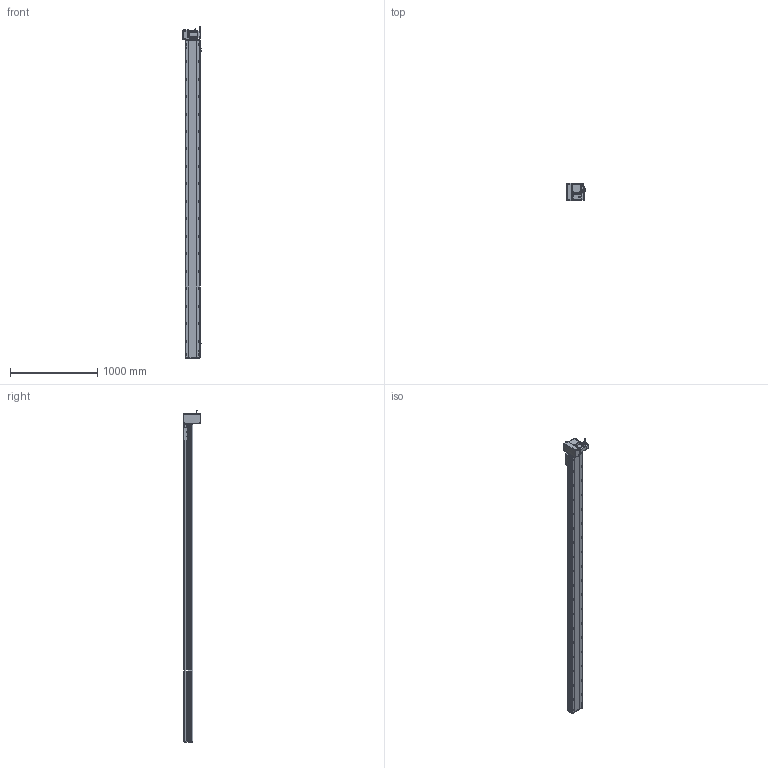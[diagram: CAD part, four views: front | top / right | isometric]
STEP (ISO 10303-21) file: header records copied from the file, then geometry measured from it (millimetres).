
FILE_DESCRIPTION (( 'STEP AP214' ), '1' );
FILE_NAME ('RTB17S-XX-3350-LM-M75-C4.STEP', '2025-12-12T00:51:49', ( '' ), ( '' ), 'SwSTEP 2.0', 'SolidWorks 2018', '' );
FILE_SCHEMA (( 'AUTOMOTIVE_DESIGN' ));
Length unit declared in the file: millimetre
Products named in the file (15): RTB17-R-011菁釱^RTB17S-XX-XX-LM-M75-C4; RTB17S-L-004-賑釱^RTB17S-賑釱_RTB17S-XX-XX-LM-M75-C4; RTB22S-GY-018P^RTB17S-LM-々湍釱蚾饜-750W_RTB17S-XX-XX-LM-M75-C4; RTB22S-GY-017P^RTB17S-LM-々湍釱蚾饜-750W_RTB17S-XX-XX-LM-M75-C4; RTB17S-XX-3350-LM-M75-C4; 750W萇儂^RTB17S-XX-XX-LM-M75-C4; RTB22S-GY-008-M75--萇儂啣^RTB17S-LM-々湍釱蚾饜-750W_RTB17S-XX-XX-LM-M75-C4; RTB17S-L-001-耜醱啣^RTB17S-XX-XX-LM-M75-C4; RTB17S-L-007奻裔^RTB17S-XX-XX-LM-M75-C4; RTB17S-賑釱^RTB17S-XX-XX-LM-M75-C4; EE672^RTB17S-XX-XX-LM-M75-C4; RTB17S-LM-々湍釱蚾饜-750W^RTB17S-XX-XX-LM-M75-C4; RTB22S-GY-005P^RTB17S-LM-々湍釱蚾饜-750W_RTB17S-XX-XX-LM-M75-C4; RTH13-BL-012覜茼え俋离^RTB17S-賑釱_RTB17S-XX-XX-LM-M75-C4; RTB17S-L-014-T20-P75--々湍釱^RTB17S-LM-々湍釱蚾饜-750W_RTB17S-XX-XX-LM-M75-C4
Assembly tree (17 placements, depth 3):
  RTB17S-XX-3350-LM-M75-C4
    RTB17-R-011菁釱^RTB17S-XX-XX-LM-M75-C4
    EE672^RTB17S-XX-XX-LM-M75-C4  x3
    RTB17S-L-001-耜醱啣^RTB17S-XX-XX-LM-M75-C4
    RTB17S-賑釱^RTB17S-XX-XX-LM-M75-C4
      RTB17S-L-004-賑釱^RTB17S-賑釱_RTB17S-XX-XX-LM-M75-C4
      RTH13-BL-012覜茼え俋离^RTB17S-賑釱_RTB17S-XX-XX-LM-M75-C4
    RTB17S-L-007奻裔^RTB17S-XX-XX-LM-M75-C4
    750W萇儂^RTB17S-XX-XX-LM-M75-C4
    RTB17S-LM-々湍釱蚾饜-750W^RTB17S-XX-XX-LM-M75-C4
      RTB17S-L-014-T20-P75--々湍釱^RTB17S-LM-々湍釱蚾饜-750W_RTB17S-XX-XX-LM-M75-C4
      RTB22S-GY-005P^RTB17S-LM-々湍釱蚾饜-750W_RTB17S-XX-XX-LM-M75-C4
      RTB22S-GY-017P^RTB17S-LM-々湍釱蚾饜-750W_RTB17S-XX-XX-LM-M75-C4  x2
      RTB22S-GY-008-M75--萇儂啣^RTB17S-LM-々湍釱蚾饜-750W_RTB17S-XX-XX-LM-M75-C4
      RTB22S-GY-018P^RTB17S-LM-々湍釱蚾饜-750W_RTB17S-XX-XX-LM-M75-C4
Bounding box: 210.4 x 200 x 3802.2 mm (x, y, z)
Volume: 26891362.4 mm3; surface area: 4957492.7 mm2
Topology: 17 solids, 17 shells, 2281 faces, 6430 edges, 4166 vertices
Faces by surface type: plane 994, cylinder 871, bspline 294, cone 110, sphere 8, torus 4
Entity records: 67318 total; most frequent: CARTESIAN_POINT 20094, ORIENTED_EDGE 9704, DIRECTION 8942, EDGE_CURVE 4852, AXIS2_PLACEMENT_3D 3186, VERTEX_POINT 3170, VECTOR 2570, LINE 2570
